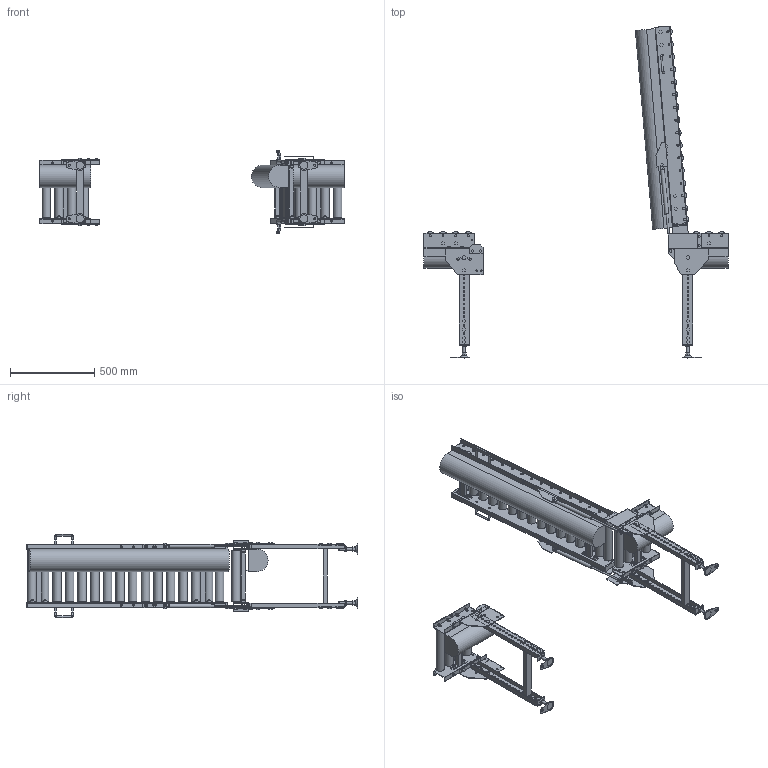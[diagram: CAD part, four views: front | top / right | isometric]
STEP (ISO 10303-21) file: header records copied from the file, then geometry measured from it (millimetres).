
FILE_DESCRIPTION (( 'STEP AP214' ), '1' );
FILE_NAME ('MCD50HU-L-1200-315-75.STEP', '2022-11-17T03:04:51', ( '' ), ( '' ), 'SwSTEP 2.0', 'SolidWorks 2017', '' );
FILE_SCHEMA (( 'AUTOMOTIVE_DESIGN' ));
Length unit declared in the file: millimetre
Products named in the file (1): MCD50HU-L-1200-315-75
Bounding box: 1800 x 1964.71 x 491.4 mm (x, y, z)
Volume: 44971008.2 mm3; surface area: 4562989.3 mm2
Topology: 5 solids, 31 shells, 2667 faces, 6672 edges, 4243 vertices
Faces by surface type: plane 2168, cylinder 481, cone 10, torus 8
Full cylindrical faces by diameter (mm): 8 x8, 8.5 x8, 9 x20, 10 x58, 10.5 x96, 11 x8, 12 x50, 13 x12, 14 x4, 15 x6, 15.4 x2, 15.7 x2, 16 x10, 17 x4, 18 x6, 18.4 x28, 18.5 x8, 21 x12, 22 x2, 50.8 x24
Entity records: 77244 total; most frequent: CARTESIAN_POINT 13189, DIRECTION 12944, ORIENTED_EDGE 12180, EDGE_CURVE 6090, LINE 4564, VECTOR 4564, AXIS2_PLACEMENT_3D 4190, VERTEX_POINT 4047
